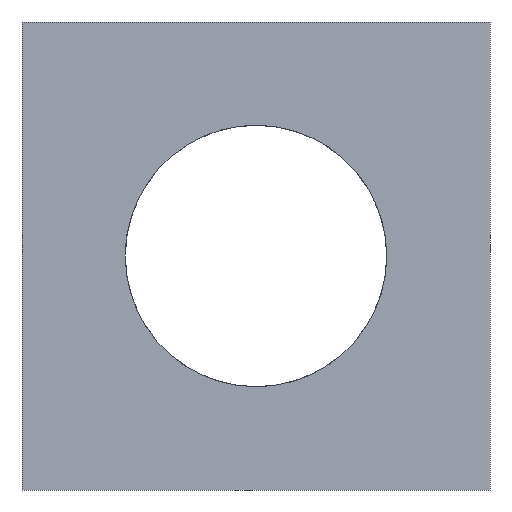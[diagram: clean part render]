
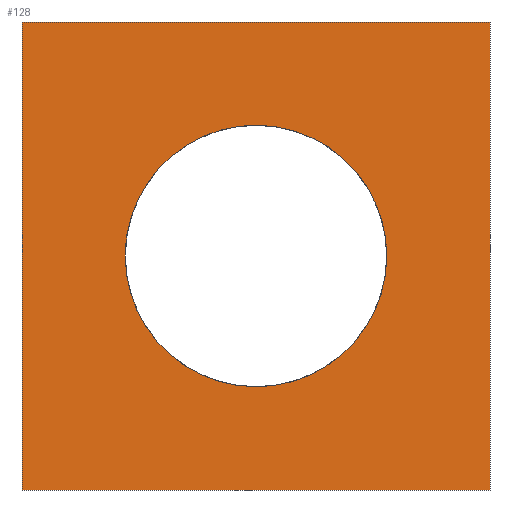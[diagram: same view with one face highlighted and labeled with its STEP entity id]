
A CAD part, front view. The second image highlights one B-rep face of the part: STEP entity #128.
In plain terms, the highlighted planar face has unit normal (0.087, -0.996, 0).
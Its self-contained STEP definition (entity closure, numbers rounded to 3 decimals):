
#18=FACE_BOUND('',#29,.T.);
#20=ELLIPSE('',#156,19.072,19.);
#21=FACE_OUTER_BOUND('',#28,.T.);
#28=EDGE_LOOP('',(#90,#91,#92,#93));
#29=EDGE_LOOP('',(#94));
#37=LINE('',#204,#50);
#38=LINE('',#206,#51);
#39=LINE('',#208,#52);
#40=LINE('',#209,#53);
#50=VECTOR('',#169,10.);
#51=VECTOR('',#170,10.);
#52=VECTOR('',#171,10.);
#53=VECTOR('',#172,10.);
#63=VERTEX_POINT('',#202);
#64=VERTEX_POINT('',#203);
#65=VERTEX_POINT('',#205);
#66=VERTEX_POINT('',#207);
#67=VERTEX_POINT('',#210);
#74=EDGE_CURVE('',#63,#64,#37,.T.);
#75=EDGE_CURVE('',#65,#63,#38,.T.);
#76=EDGE_CURVE('',#66,#65,#39,.T.);
#77=EDGE_CURVE('',#66,#64,#40,.T.);
#78=EDGE_CURVE('',#67,#67,#20,.T.);
#90=ORIENTED_EDGE('',*,*,#74,.F.);
#91=ORIENTED_EDGE('',*,*,#75,.F.);
#92=ORIENTED_EDGE('',*,*,#76,.F.);
#93=ORIENTED_EDGE('',*,*,#77,.T.);
#94=ORIENTED_EDGE('',*,*,#78,.F.);
#122=PLANE('',#155);
#128=ADVANCED_FACE('',(#21,#18),#122,.F.);
#155=AXIS2_PLACEMENT_3D('',#201,#167,#168);
#156=AXIS2_PLACEMENT_3D('',#211,#173,#174);
#167=DIRECTION('center_axis',(-0.087,0.996,0.));
#168=DIRECTION('ref_axis',(0.996,0.087,0.));
#169=DIRECTION('',(-0.996,-0.087,0.));
#170=DIRECTION('',(0.,0.,-1.));
#171=DIRECTION('',(0.996,0.087,0.));
#172=DIRECTION('',(0.,0.,-1.));
#173=DIRECTION('center_axis',(0.087,-0.996,0.));
#174=DIRECTION('ref_axis',(0.996,0.087,0.));
#201=CARTESIAN_POINT('Origin',(-34.,-9.,34.));
#202=CARTESIAN_POINT('',(34.,-3.073,-34.));
#203=CARTESIAN_POINT('',(-34.,-9.,-34.));
#204=CARTESIAN_POINT('',(-33.611,-8.966,-34.));
#205=CARTESIAN_POINT('',(34.,-3.073,34.));
#206=CARTESIAN_POINT('',(34.,-3.073,0.));
#207=CARTESIAN_POINT('',(-34.,-9.,34.));
#208=CARTESIAN_POINT('',(0.133,-6.025,34.));
#209=CARTESIAN_POINT('',(-34.,-9.,-34.));
#210=CARTESIAN_POINT('',(-19.,-7.693,0.));
#211=CARTESIAN_POINT('Origin',(0.,-6.037,0.));
